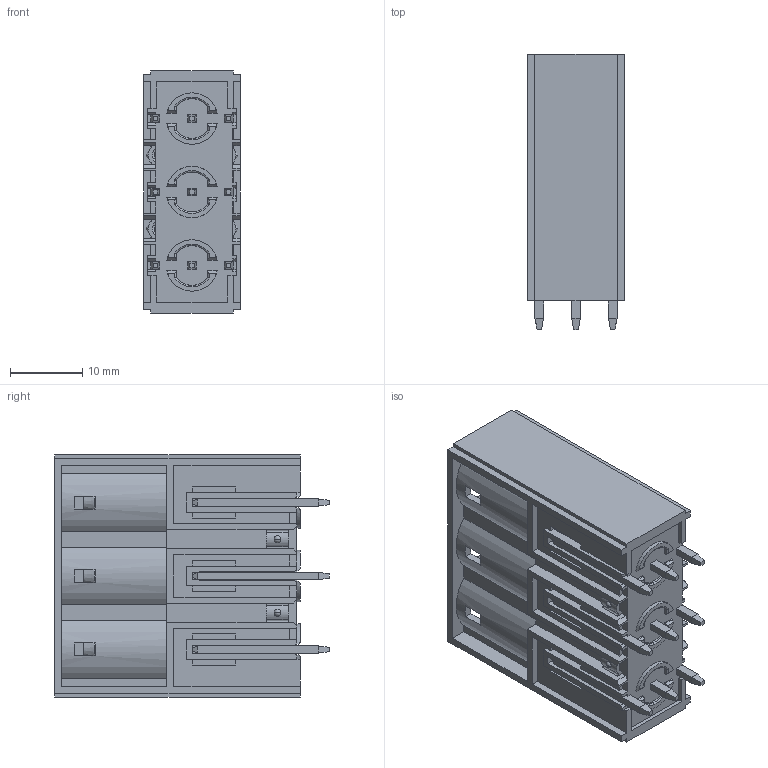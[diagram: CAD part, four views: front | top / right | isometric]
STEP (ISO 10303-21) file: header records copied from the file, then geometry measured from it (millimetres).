
FILE_DESCRIPTION((''),'2;1');
FILE_NAME('EW0361500000G_SW0001','2019-05-27T',('zhenbing.lai'),(''),'CREO PARAMETRIC BY PTC INC, 2016260','CREO PARAMETRIC BY PTC INC, 2016260','');
FILE_SCHEMA(('CONFIG_CONTROL_DESIGN'));
Length unit declared in the file: millimetre
Products named in the file (1): EW0361500000G_SW0001
Bounding box: 13.4 x 38 x 33.52 mm (x, y, z)
Volume: 9994.9 mm3; surface area: 7368.4 mm2
Topology: 1 solids, 1 shells, 563 faces, 1604 edges, 1052 vertices
Faces by surface type: plane 465, cylinder 70, cone 8, sphere 8, torus 6, bspline 6
Entity records: 18433 total; most frequent: CARTESIAN_POINT 3763, ORIENTED_EDGE 3192, DIRECTION 2819, EDGE_CURVE 1596, VECTOR 1319, LINE 1319, VERTEX_POINT 1052, AXIS2_PLACEMENT_3D 750
